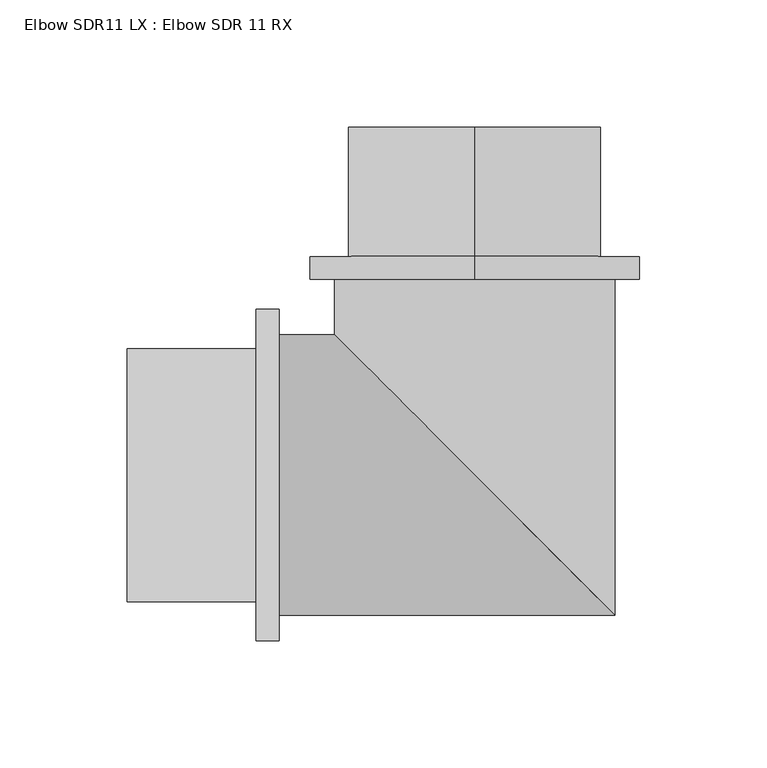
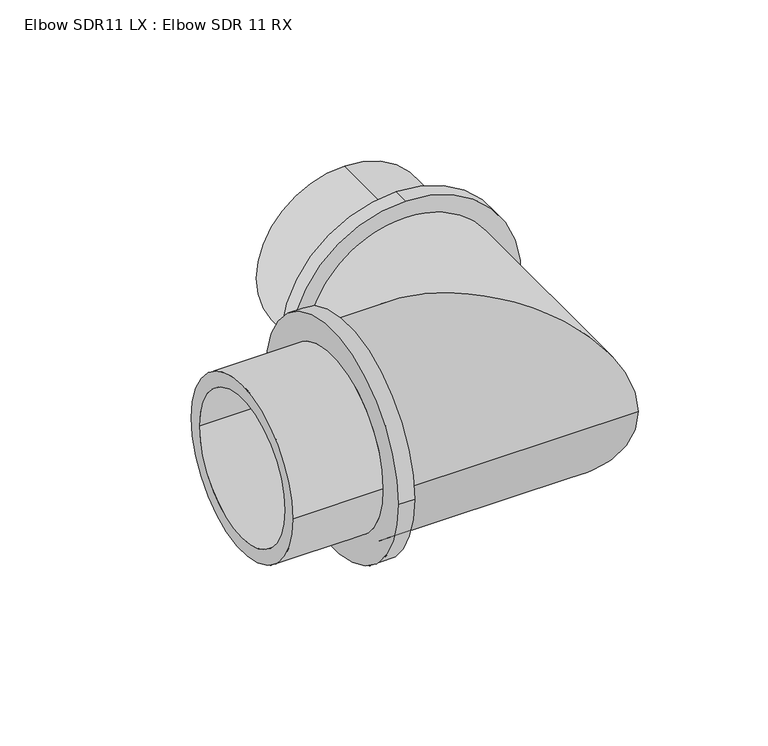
"""IFC4 building model written with IfcOpenShell, lengths in millimetres: pipe fitting geometry, Elbow SDR11 LX : Elbow SDR 11 RX."""

from ifc_helpers import new_model, si_unit, frame, origin, place, context, project, spatial, polyline, circle_curve, ellipse_curve, source, transform, mapped, element, save
from ifc_brep_helpers import plane_surface, cylinder_surface, revolved_surface, advanced_brep


def elbow_sdr11_lx_elbow_sdr_11_rx_9d03f633(model_context):
    return source(origin(), model_context, "Body", "AdvancedBrep", [
        advanced_brep(
        [(-76.9, -55.0, 0.0), (-76.9, 55.0, 0.0), (-76.9, -41.5, 0.0), (-76.9, 41.5, 0.0), (55.0, -55.0, 0.0), (-55.0, 55.0, 0.0), (41.5, -41.5, 0.0), (-41.5, 41.5, 0.0), (55.0, 76.9, 0.0), (-55.0, 76.9, 0.0), (41.5, 76.9, 0.0), (-41.5, 76.9, 0.0)],
        [
            (0, 1, circle_curve(frame((-76.9, 0.0, 0.0), z_axis=(-1.0, 0.0, 0.0), x_axis=(0.0, 1.0, 0.0)), 55.0)),
            (1, 0, circle_curve(frame((-76.9, 0.0, 0.0), z_axis=(-1.0, 0.0, 0.0), x_axis=(0.0, 1.0, 0.0)), 55.0)),
            (2, 3, circle_curve(frame((-76.9, 0.0, 0.0), z_axis=(1.0, 0.0, 0.0), x_axis=(0.0, 1.0, 0.0)), 41.5)),
            (3, 2, circle_curve(frame((-76.9, 0.0, 0.0), z_axis=(1.0, 0.0, 0.0), x_axis=(0.0, 1.0, 0.0)), 41.5)),
            (0, 4),
            (4, 5, ellipse_curve(frame((0.0, 0.0, 0.0), z_axis=(-0.7071067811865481, -0.7071067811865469, 0.0), x_axis=(-0.7071067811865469, 0.7071067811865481, 0.0)), 77.7817459, 55.0)),
            (5, 1),
            (5, 4, ellipse_curve(frame((0.0, 0.0, 0.0), z_axis=(-0.7071067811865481, -0.7071067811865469, 0.0), x_axis=(-0.7071067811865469, 0.7071067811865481, 0.0)), 77.7817459, 55.0)),
            (2, 6),
            (6, 7, ellipse_curve(frame((0.0, 0.0, 0.0), z_axis=(0.7071067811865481, 0.7071067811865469, 0.0), x_axis=(0.7071067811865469, -0.7071067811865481, 0.0)), 58.6898628, 41.5)),
            (7, 3),
            (7, 6, ellipse_curve(frame((0.0, 0.0, 0.0), z_axis=(0.7071067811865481, 0.7071067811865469, 0.0), x_axis=(0.7071067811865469, -0.7071067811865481, 0.0)), 58.6898628, 41.5)),
            (8, 9, circle_curve(frame((0.0, 76.9, 0.0), z_axis=(0.0, 1.0, 0.0), x_axis=(-1.0, 0.0, 0.0)), 55.0)),
            (9, 8, circle_curve(frame((0.0, 76.9, 0.0), z_axis=(0.0, 1.0, 0.0), x_axis=(-1.0, 0.0, 0.0)), 55.0)),
            (10, 11, circle_curve(frame((0.0, 76.9, 0.0), z_axis=(0.0, -1.0, 0.0), x_axis=(-1.0, 0.0, 0.0)), 41.5)),
            (11, 10, circle_curve(frame((0.0, 76.9, 0.0), z_axis=(0.0, -1.0, 0.0), x_axis=(-1.0, 0.0, 0.0)), 41.5)),
            (4, 8),
            (9, 5),
            (6, 10),
            (11, 7),
        ],
        [
            plane_surface(frame((-76.9, 0.0, 0.0), z_axis=(-1.0, 0.0, 0.0), x_axis=(0.0, 0.0, 1.0))),
            cylinder_surface(frame((-76.9, 0.0, 0.0), z_axis=(-1.0, 0.0, 0.0), x_axis=(0.0, 1.0, 0.0)), 55.0),
            revolved_surface(polyline([(41.5, 41.5, 0.0), (-76.9, 41.5, 0.0)]), (-76.9, 0.0, 0.0), (1.0, 0.0, 0.0)),
            plane_surface(frame((0.0, 76.9, 0.0), z_axis=(0.0, 1.0, 0.0), x_axis=(0.0, 0.0, 1.0))),
            cylinder_surface(frame((0.0, 0.0, 0.0), z_axis=(0.0, -1.0, 0.0), x_axis=(-1.0, 0.0, 0.0)), 55.0),
            revolved_surface(polyline([(-41.5, 76.9, 0.0), (-41.5, -41.5, 0.0)]), (0.0, 0.0, 0.0), (0.0, 1.0, 0.0)),
        ],
        [
            (0, [[1, 2], [3, 4]]),
            (1, [[-1, 5, 6, 7]]),
            (1, [[-2, -7, 8, -5]]),
            (2, [[-3, 9, 10, 11]]),
            (2, [[-4, -11, 12, -9]]),
            (3, [[13, 14], [15, 16]]),
            (4, [[-6, 17, -14, 18]]),
            (4, [[-8, -18, -13, -17]]),
            (5, [[-10, 19, -16, 20]]),
            (5, [[-12, -20, -15, -19]]),
        ],
    ),
        advanced_brep(
        [(0.0, 136.5, 41.5), (0.0, 136.5, -41.5), (0.0, 76.9, -41.5), (0.0, 76.9, 41.5), (0.0, 85.8, 49.65), (0.0, 85.8, -49.65), (0.0, 136.5, -49.65), (0.0, 136.5, 49.65), (0.0, 76.9, 65.0), (0.0, 76.9, -65.0), (0.0, 85.8, -65.0), (0.0, 85.8, 65.0)],
        [
            (0, 1, circle_curve(frame((0.0, 136.5, 0.0), z_axis=(0.0, 1.0, 0.0), x_axis=(0.0, 0.0, -1.0)), 41.5)),
            (1, 2),
            (2, 3, circle_curve(frame((0.0, 76.9, 0.0), z_axis=(0.0, -1.0, 0.0), x_axis=(0.0, 0.0, -1.0)), 41.5)),
            (3, 0),
            (4, 5, circle_curve(frame((0.0, 85.8, 0.0), z_axis=(0.0, 1.0, 0.0), x_axis=(0.0, 0.0, -1.0)), 49.65)),
            (5, 6),
            (6, 7, circle_curve(frame((0.0, 136.5, 0.0), z_axis=(0.0, -1.0, 0.0), x_axis=(0.0, 0.0, -1.0)), 49.65)),
            (7, 4),
            (8, 9, circle_curve(frame((0.0, 76.9, 0.0), z_axis=(0.0, 1.0, 0.0), x_axis=(0.0, 0.0, -1.0)), 65.0)),
            (9, 10),
            (10, 11, circle_curve(frame((0.0, 85.8, 0.0), z_axis=(0.0, -1.0, 0.0), x_axis=(0.0, 0.0, -1.0)), 65.0)),
            (11, 8),
            (1, 0, circle_curve(frame((0.0, 136.5, 0.0), z_axis=(0.0, 1.0, 0.0), x_axis=(0.0, 0.0, 1.0)), 41.5)),
            (3, 2, circle_curve(frame((0.0, 76.9, 0.0), z_axis=(0.0, -1.0, 0.0), x_axis=(0.0, 0.0, 1.0)), 41.5)),
            (6, 7, circle_curve(frame((0.0, 136.5, 0.0), z_axis=(0.0, 1.0, 0.0), x_axis=(0.0, 0.0, 1.0)), 49.65)),
            (5, 4, circle_curve(frame((0.0, 85.8, 0.0), z_axis=(0.0, 1.0, 0.0), x_axis=(0.0, 0.0, 1.0)), 49.65)),
            (10, 11, circle_curve(frame((0.0, 85.8, 0.0), z_axis=(0.0, 1.0, 0.0), x_axis=(0.0, 0.0, 1.0)), 65.0)),
            (9, 8, circle_curve(frame((0.0, 76.9, 0.0), z_axis=(0.0, 1.0, 0.0), x_axis=(0.0, 0.0, 1.0)), 65.0)),
        ],
        [
            revolved_surface(polyline([(0.0, 76.9, -41.5), (0.0, 136.5, -41.5)]), (0.0, 0.0, 0.0), (0.0, -1.0, 0.0)),
            cylinder_surface(frame((0.0, 0.0, 0.0), z_axis=(0.0, -1.0, 0.0), x_axis=(0.0, 0.0, -1.0)), 49.65),
            cylinder_surface(frame((0.0, 0.0, 0.0), z_axis=(0.0, -1.0, 0.0), x_axis=(0.0, 0.0, -1.0)), 65.0),
            revolved_surface(polyline([(0.0, 76.9, 41.5), (0.0, 136.5, 41.5)]), (0.0, 0.0, 0.0), (0.0, -1.0, 0.0)),
            plane_surface(frame((0.0, 136.5, 0.0), z_axis=(0.0, 1.0, 0.0), x_axis=(0.0, 0.0, 1.0))),
            cylinder_surface(frame((0.0, 0.0, 0.0), z_axis=(0.0, -1.0, 0.0), x_axis=(0.0, 0.0, 1.0)), 49.65),
            plane_surface(frame((0.0, 85.8, 0.0), z_axis=(0.0, 1.0, 0.0), x_axis=(0.0, 0.0, 1.0))),
            cylinder_surface(frame((0.0, 0.0, 0.0), z_axis=(0.0, -1.0, 0.0), x_axis=(0.0, 0.0, 1.0)), 65.0),
            plane_surface(frame((0.0, 76.9, 0.0), z_axis=(0.0, -1.0, 0.0), x_axis=(0.0, 0.0, 1.0))),
        ],
        [
            (0, [[1, 2, 3, 4]]),
            (1, [[5, 6, 7, 8]]),
            (2, [[9, 10, 11, 12]]),
            (3, [[13, -4, 14, -2]]),
            (4, [[15, -7], [-13, -1]]),
            (5, [[16, -8, -15, -6]]),
            (6, [[17, -11], [-16, -5]]),
            (7, [[18, -12, -17, -10]]),
            (8, [[-18, -9], [-14, -3]]),
        ],
    ),
        advanced_brep(
        [(-76.9, 65.0, 0.0), (-76.9, -65.0, 0.0), (-85.8, -65.0, 0.0), (-85.8, 65.0, 0.0), (-85.8, 49.65, 0.0), (-85.8, -49.65, 0.0), (-136.5, -49.65, 0.0), (-136.5, 49.65, 0.0), (-136.5, 41.5, 0.0), (-136.5, -41.5, 0.0), (-76.9, -41.5, 0.0), (-76.9, 41.5, 0.0)],
        [
            (0, 1, circle_curve(frame((-76.9, 0.0, 0.0), z_axis=(-1.0, 0.0, 0.0), x_axis=(0.0, -1.0, 0.0)), 65.0)),
            (1, 2),
            (2, 3, circle_curve(frame((-85.8, 0.0, 0.0), z_axis=(1.0, 0.0, 0.0), x_axis=(0.0, -1.0, 0.0)), 65.0)),
            (3, 0),
            (4, 5, circle_curve(frame((-85.8, 0.0, 0.0), z_axis=(-1.0, 0.0, 0.0), x_axis=(0.0, -1.0, 0.0)), 49.65)),
            (5, 6),
            (6, 7, circle_curve(frame((-136.5, 0.0, 0.0), z_axis=(1.0, 0.0, 0.0), x_axis=(0.0, -1.0, 0.0)), 49.65)),
            (7, 4),
            (8, 9, circle_curve(frame((-136.5, 0.0, 0.0), z_axis=(-1.0, 0.0, 0.0), x_axis=(0.0, -1.0, 0.0)), 41.5)),
            (9, 10),
            (10, 11, circle_curve(frame((-76.9, 0.0, 0.0), z_axis=(1.0, 0.0, 0.0), x_axis=(0.0, -1.0, 0.0)), 41.5)),
            (11, 8),
            (0, 1, circle_curve(frame((-76.9, 0.0, 0.0), z_axis=(1.0, 0.0, 0.0), x_axis=(0.0, 1.0, 0.0)), 65.0)),
            (10, 11, circle_curve(frame((-76.9, 0.0, 0.0), z_axis=(-1.0, 0.0, 0.0), x_axis=(0.0, 1.0, 0.0)), 41.5)),
            (3, 2, circle_curve(frame((-85.8, 0.0, 0.0), z_axis=(1.0, 0.0, 0.0), x_axis=(0.0, 1.0, 0.0)), 65.0)),
            (4, 5, circle_curve(frame((-85.8, 0.0, 0.0), z_axis=(1.0, 0.0, 0.0), x_axis=(0.0, 1.0, 0.0)), 49.65)),
            (7, 6, circle_curve(frame((-136.5, 0.0, 0.0), z_axis=(1.0, 0.0, 0.0), x_axis=(0.0, 1.0, 0.0)), 49.65)),
            (8, 9, circle_curve(frame((-136.5, 0.0, 0.0), z_axis=(1.0, 0.0, 0.0), x_axis=(0.0, 1.0, 0.0)), 41.5)),
        ],
        [
            cylinder_surface(frame((0.0, 0.0, 0.0), z_axis=(1.0, 0.0, 0.0), x_axis=(0.0, -1.0, 0.0)), 65.0),
            cylinder_surface(frame((0.0, 0.0, 0.0), z_axis=(1.0, 0.0, 0.0), x_axis=(0.0, -1.0, 0.0)), 49.65),
            revolved_surface(polyline([(-76.9, -41.5, 0.0), (-136.5, -41.5, 0.0)]), (0.0, 0.0, 0.0), (1.0, 0.0, 0.0)),
            plane_surface(frame((-76.9, 0.0, 0.0), z_axis=(1.0, 0.0, 0.0), x_axis=(0.0, 1.0, 0.0))),
            cylinder_surface(frame((0.0, 0.0, 0.0), z_axis=(1.0, 0.0, 0.0), x_axis=(0.0, 1.0, 0.0)), 65.0),
            plane_surface(frame((-85.8, 0.0, 0.0), z_axis=(-1.0, 0.0, 0.0), x_axis=(0.0, 1.0, 0.0))),
            cylinder_surface(frame((0.0, 0.0, 0.0), z_axis=(1.0, 0.0, 0.0), x_axis=(0.0, 1.0, 0.0)), 49.65),
            plane_surface(frame((-136.5, 0.0, 0.0), z_axis=(-1.0, 0.0, 0.0), x_axis=(0.0, 1.0, 0.0))),
            revolved_surface(polyline([(-76.9, 41.5, 0.0), (-136.5, 41.5, 0.0)]), (0.0, 0.0, 0.0), (1.0, 0.0, 0.0)),
        ],
        [
            (0, [[1, 2, 3, 4]]),
            (1, [[5, 6, 7, 8]]),
            (2, [[9, 10, 11, 12]]),
            (3, [[13, -1], [14, -11]]),
            (4, [[-13, -4, 15, -2]]),
            (5, [[-15, -3], [16, -5]]),
            (6, [[-16, -8, 17, -6]]),
            (7, [[-17, -7], [18, -9]]),
            (8, [[-18, -12, -14, -10]]),
        ],
    ),
    ])


if __name__ == "__main__":
    model = new_model("IFC4")
    model_context = context("Model", 3, world=origin())
    ifc_project = project(units=[si_unit("LENGTHUNIT", "METRE", prefix="MILLI")], contexts=[model_context])
    site = spatial("IfcSite", under=ifc_project)
    building = spatial("IfcBuilding", under=site)
    placement = place(None, origin())
    elbow_sdr11_lx_elbow_sdr_11_rx_shape = elbow_sdr11_lx_elbow_sdr_11_rx_9d03f633(model_context)
    element("IfcPipeFitting", 1, ObjectType="Elbow SDR11 LX : Elbow SDR 11 RX", at=placement, inside=building, context=model_context, shape_type="MappedRepresentation", body=[
        mapped(elbow_sdr11_lx_elbow_sdr_11_rx_shape, transform((0.0, 0.0, 0.0), x_axis=(1.0, 0.0, 0.0), y_axis=(0.0, 1.0, 0.0), z_axis=(0.0, 0.0, 1.0))),
    ])
    save(model, "model.ifc")
